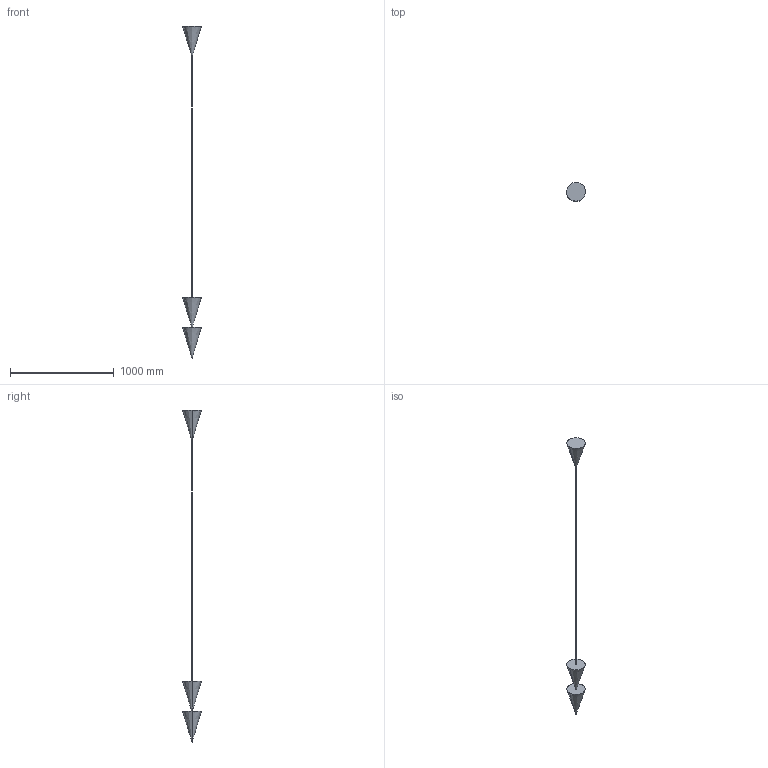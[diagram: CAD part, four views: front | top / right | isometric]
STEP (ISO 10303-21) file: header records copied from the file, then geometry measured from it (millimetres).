
FILE_DESCRIPTION(/* description */ (''),/* implementation_level */ '2;1');
FILE_NAME(/* name */ 'PEAKS-2-up',/* time_stamp */ '2023-08-21T17:05:13+01:00',/* author */ (''),/* organization */ (''),/* preprocessor_version */ 'ST-DEVELOPER v16.5',/* originating_system */ 'Rhino 7.32',/* authorisation */ '');
FILE_SCHEMA (('CONFIG_CONTROL_DESIGN'));
Length unit declared in the file: millimetre
Products named in the file (1): Document
Bounding box: 180 x 179.77 x 3200 mm (x, y, z)
Volume: 7680381.8 mm3; surface area: 374256.5 mm2
Topology: 1 solids, 1 shells, 14 faces, 28 edges, 17 vertices
Faces by surface type: bspline 8, plane 4, cylinder 2
Entity records: 485 total; most frequent: CARTESIAN_POINT 229, ORIENTED_EDGE 52, EDGE_CURVE 26, EDGE_LOOP 17, VERTEX_POINT 17, ADVANCED_FACE 14, FACE_OUTER_BOUND 14, DIRECTION 10
